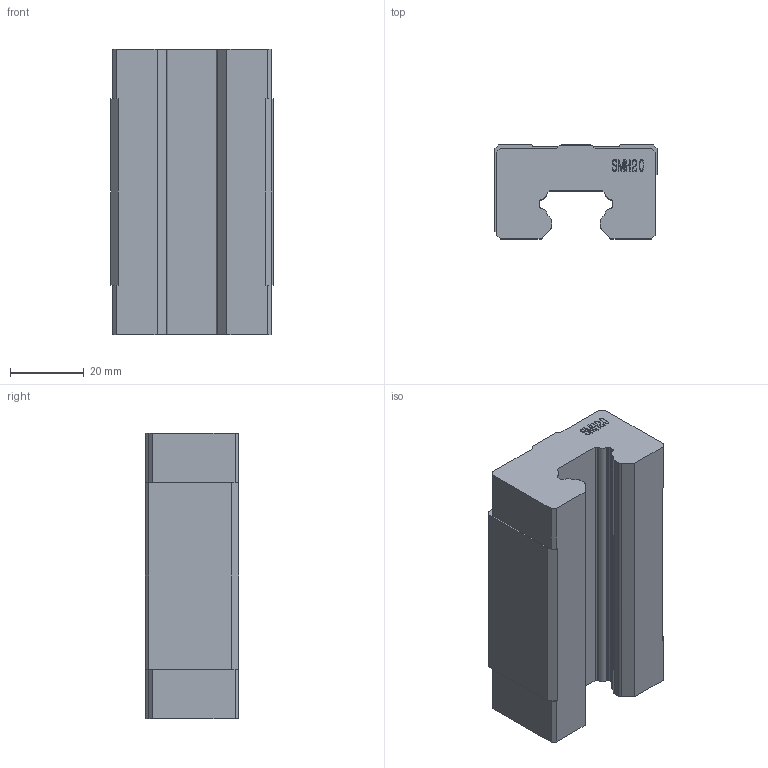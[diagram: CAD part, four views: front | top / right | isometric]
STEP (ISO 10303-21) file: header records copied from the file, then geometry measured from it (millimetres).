
FILE_DESCRIPTION (( 'STEP AP203' ), '1' );
FILE_NAME ('SMH20B.stp', '2019-09-24T06:59:47', ( 'pgos' ), ( '' ), 'SwSTEP 2.0', 'SolidWorks 2014', '' );
FILE_SCHEMA (( 'CONFIG_CONTROL_DESIGN' ));
Length unit declared in the file: millimetre
Products named in the file (1): SMH20B
Bounding box: 44 x 25.4 x 77.5 mm (x, y, z)
Volume: 67294 mm3; surface area: 14970 mm2
Topology: 1 solids, 1 shells, 220 faces, 612 edges, 404 vertices
Faces by surface type: plane 137, bspline 47, cylinder 36
Entity records: 9379 total; most frequent: CARTESIAN_POINT 3916, ORIENTED_EDGE 1224, DIRECTION 938, EDGE_CURVE 612, LINE 446, VECTOR 446, VERTEX_POINT 404, AXIS2_PLACEMENT_3D 246
